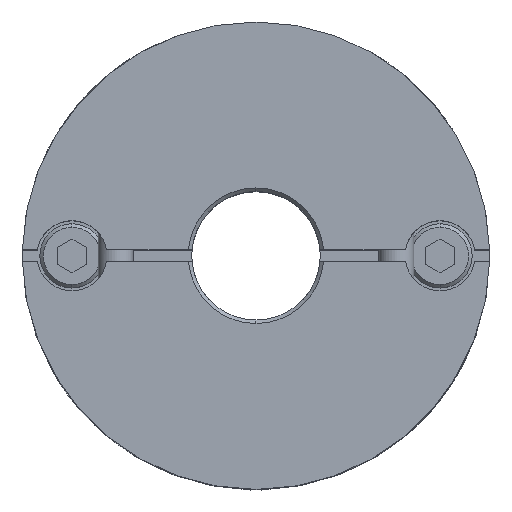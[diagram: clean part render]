
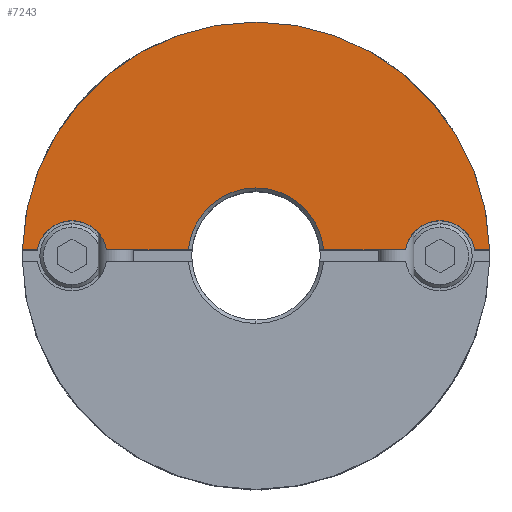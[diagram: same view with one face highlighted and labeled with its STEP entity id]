
A CAD part, top view. The second image highlights one B-rep face of the part: STEP entity #7243.
In plain terms, the highlighted planar face has unit normal (0, 0, 1).
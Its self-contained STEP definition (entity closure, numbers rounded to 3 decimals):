
#605=CARTESIAN_POINT('',(0.,20.0,15.6));
#606=VERTEX_POINT('',#605);
#690=CARTESIAN_POINT('',(-19.994,0.5,15.6));
#691=VERTEX_POINT('',#690);
#698=CARTESIAN_POINT('',(0.,0.0,15.6));
#699=DIRECTION('',(0.0,0.0,-1.0));
#700=DIRECTION('',(0.0,1.0,0.0));
#701=AXIS2_PLACEMENT_3D('',#698,#699,#700);
#702=CIRCLE('',#701,20.0);
#703=EDGE_CURVE('',#691,#606,#702,.T.);
#993=CARTESIAN_POINT('',(0.,5.8,15.6));
#994=VERTEX_POINT('',#993);
#1001=CARTESIAN_POINT('',(-5.778,0.5,15.6));
#1002=VERTEX_POINT('',#1001);
#1003=CARTESIAN_POINT('',(0.,0.,15.6));
#1004=DIRECTION('',(0.0,0.0,1.0));
#1005=DIRECTION('',(0.0,-1.0,0.0));
#1006=AXIS2_PLACEMENT_3D('',#1003,#1004,#1005);
#1007=CIRCLE('',#1006,5.8);
#1008=EDGE_CURVE('',#994,#1002,#1007,.T.);
#1309=CARTESIAN_POINT('',(-15.75,3.,15.6));
#1310=VERTEX_POINT('',#1309);
#1319=CARTESIAN_POINT('',(-18.708,0.5,15.6));
#1320=VERTEX_POINT('',#1319);
#1321=CARTESIAN_POINT('',(-15.75,0.,15.6));
#1322=DIRECTION('',(0.0,0.0,-1.0));
#1323=DIRECTION('',(0.0,1.0,0.0));
#1324=AXIS2_PLACEMENT_3D('',#1321,#1322,#1323);
#1325=CIRCLE('',#1324,3.0);
#1326=EDGE_CURVE('',#1320,#1310,#1325,.T.);
#1579=CARTESIAN_POINT('',(15.75,3.,15.6));
#1580=VERTEX_POINT('',#1579);
#1589=CARTESIAN_POINT('',(12.792,0.5,15.6));
#1590=VERTEX_POINT('',#1589);
#1591=CARTESIAN_POINT('',(15.75,0.,15.6));
#1592=DIRECTION('',(0.0,0.0,-1.0));
#1593=DIRECTION('',(0.0,1.0,0.0));
#1594=AXIS2_PLACEMENT_3D('',#1591,#1592,#1593);
#1595=CIRCLE('',#1594,3.0);
#1596=EDGE_CURVE('',#1590,#1580,#1595,.T.);
#5954=CARTESIAN_POINT('',(18.708,0.5,15.6));
#5955=VERTEX_POINT('',#5954);
#5962=CARTESIAN_POINT('',(15.75,0.,15.6));
#5963=DIRECTION('',(0.0,0.0,-1.0));
#5964=DIRECTION('',(0.0,1.0,0.0));
#5965=AXIS2_PLACEMENT_3D('',#5962,#5963,#5964);
#5966=CIRCLE('',#5965,3.0);
#5967=EDGE_CURVE('',#1580,#5955,#5966,.T.);
#6406=CARTESIAN_POINT('',(-12.792,0.5,15.6));
#6407=VERTEX_POINT('',#6406);
#6414=CARTESIAN_POINT('',(-15.75,0.,15.6));
#6415=DIRECTION('',(0.0,0.0,-1.0));
#6416=DIRECTION('',(0.0,1.0,0.0));
#6417=AXIS2_PLACEMENT_3D('',#6414,#6415,#6416);
#6418=CIRCLE('',#6417,3.0);
#6419=EDGE_CURVE('',#1310,#6407,#6418,.T.);
#6512=CARTESIAN_POINT('',(-12.792,0.5,15.6));
#6513=DIRECTION('',(1.0,0.0,0.0));
#6514=VECTOR('',#6513,7.014);
#6515=LINE('',#6512,#6514);
#6516=EDGE_CURVE('',#6407,#1002,#6515,.T.);
#6579=CARTESIAN_POINT('',(5.778,0.5,15.6));
#6580=VERTEX_POINT('',#6579);
#6581=CARTESIAN_POINT('',(5.778,0.5,15.6));
#6582=DIRECTION('',(1.0,0.0,0.0));
#6583=VECTOR('',#6582,7.014);
#6584=LINE('',#6581,#6583);
#6585=EDGE_CURVE('',#6580,#1590,#6584,.T.);
#7146=CARTESIAN_POINT('',(-19.994,0.5,15.6));
#7147=DIRECTION('',(1.0,0.0,0.0));
#7148=VECTOR('',#7147,1.286);
#7149=LINE('',#7146,#7148);
#7150=EDGE_CURVE('',#691,#1320,#7149,.T.);
#7205=CARTESIAN_POINT('',(0.,1.818,15.6));
#7206=DIRECTION('',(0.0,0.0,1.0));
#7207=DIRECTION('',(0.0,1.0,0.0));
#7208=AXIS2_PLACEMENT_3D('',#7205,#7206,#7207);
#7209=PLANE('',#7208);
#7210=ORIENTED_EDGE('',*,*,#1326,.T.);
#7211=ORIENTED_EDGE('',*,*,#6419,.T.);
#7212=ORIENTED_EDGE('',*,*,#6516,.T.);
#7213=ORIENTED_EDGE('',*,*,#1008,.F.);
#7214=CARTESIAN_POINT('',(0.,0.,15.6));
#7215=DIRECTION('',(0.0,0.0,1.0));
#7216=DIRECTION('',(0.0,-1.0,0.0));
#7217=AXIS2_PLACEMENT_3D('',#7214,#7215,#7216);
#7218=CIRCLE('',#7217,5.8);
#7219=EDGE_CURVE('',#6580,#994,#7218,.T.);
#7220=ORIENTED_EDGE('',*,*,#7219,.F.);
#7221=ORIENTED_EDGE('',*,*,#6585,.T.);
#7222=ORIENTED_EDGE('',*,*,#1596,.T.);
#7223=ORIENTED_EDGE('',*,*,#5967,.T.);
#7224=CARTESIAN_POINT('',(19.994,0.5,15.6));
#7225=VERTEX_POINT('',#7224);
#7226=CARTESIAN_POINT('',(18.708,0.5,15.6));
#7227=DIRECTION('',(1.0,0.0,0.0));
#7228=VECTOR('',#7227,1.286);
#7229=LINE('',#7226,#7228);
#7230=EDGE_CURVE('',#5955,#7225,#7229,.T.);
#7231=ORIENTED_EDGE('',*,*,#7230,.T.);
#7232=CARTESIAN_POINT('',(0.,0.0,15.6));
#7233=DIRECTION('',(0.0,0.0,-1.0));
#7234=DIRECTION('',(0.0,1.0,0.0));
#7235=AXIS2_PLACEMENT_3D('',#7232,#7233,#7234);
#7236=CIRCLE('',#7235,20.0);
#7237=EDGE_CURVE('',#606,#7225,#7236,.T.);
#7238=ORIENTED_EDGE('',*,*,#7237,.F.);
#7239=ORIENTED_EDGE('',*,*,#703,.F.);
#7240=ORIENTED_EDGE('',*,*,#7150,.T.);
#7241=EDGE_LOOP('',(#7210,#7211,#7212,#7213,#7220,#7221,#7222,#7223,#7231,#7238,#7239,#7240));
#7242=FACE_OUTER_BOUND('',#7241,.T.);
#7243=ADVANCED_FACE('',(#7242),#7209,.T.);
